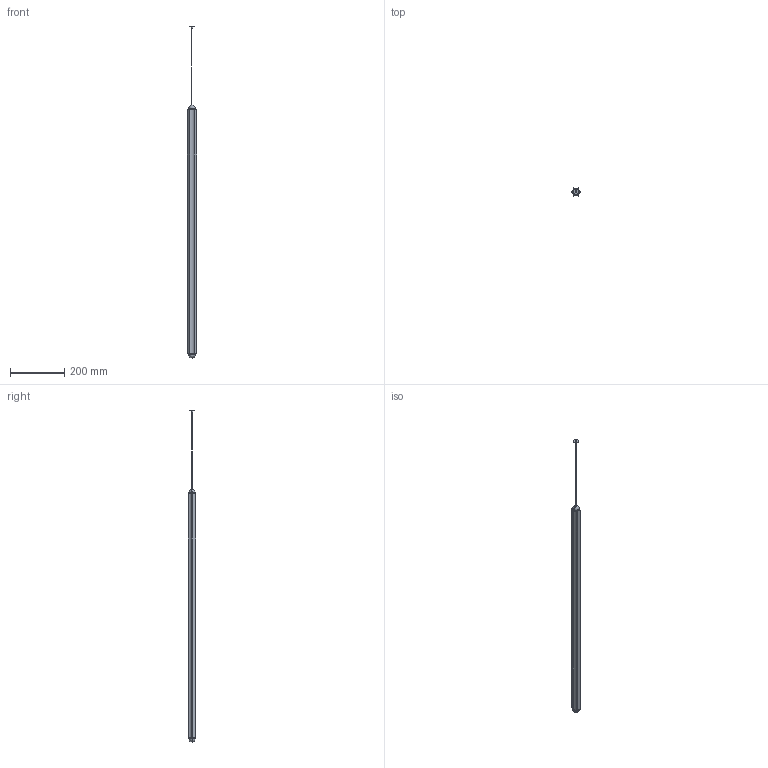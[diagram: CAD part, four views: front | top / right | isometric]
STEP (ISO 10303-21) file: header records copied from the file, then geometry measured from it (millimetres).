
FILE_DESCRIPTION(/* description */ (''),/* implementation_level */ '2;1');
FILE_NAME(/* name */ '64662-231_3d',/* time_stamp */ '2026-05-25T11:52:04+02:00',/* author */ (''),/* organization */ (''),/* preprocessor_version */ 'ST-DEVELOPER v19.2',/* originating_system */ 'Rhino 8.30',/* authorisation */ '');
FILE_SCHEMA (('CONFIG_CONTROL_DESIGN'));
Length unit declared in the file: millimetre
Products named in the file (1): Document
Bounding box: 33.58 x 29.26 x 1226.75 mm (x, y, z)
Volume: 338031.3 mm3; surface area: 151904.6 mm2
Topology: 5 solids, 6 shells, 80 faces, 223 edges, 141 vertices
Faces by surface type: cylinder 47, plane 29, bspline 4
Entity records: 3306 total; most frequent: CARTESIAN_POINT 1378, ORIENTED_EDGE 432, DIRECTION 252, EDGE_CURVE 218, AXIS2_PLACEMENT_3D 164, VERTEX_POINT 140, B_SPLINE_CURVE_WITH_KNOTS 126, EDGE_LOOP 86
